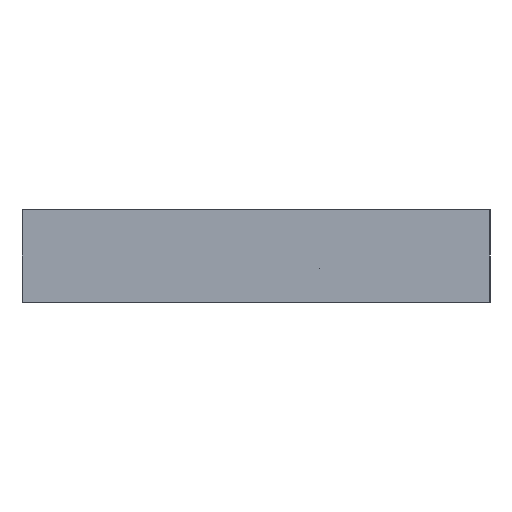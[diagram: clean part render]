
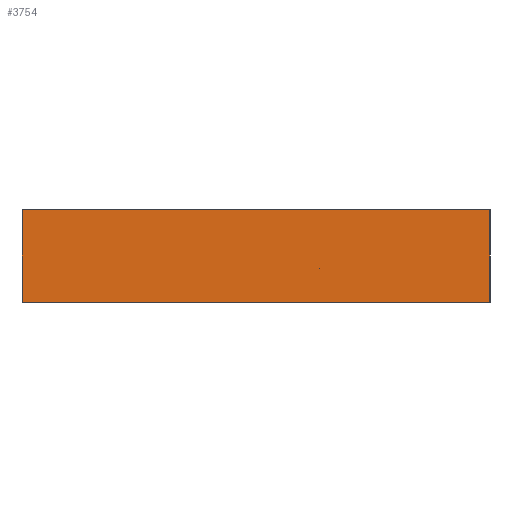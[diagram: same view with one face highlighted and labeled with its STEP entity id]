
A CAD part, left-side view. The second image highlights one B-rep face of the part: STEP entity #3754.
In plain terms, the highlighted planar face has unit normal (-1, 0, 0).
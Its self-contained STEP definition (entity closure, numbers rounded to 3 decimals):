
#44=FACE_OUTER_BOUND('',#233,.T.);
#233=EDGE_LOOP('',(#2758,#2759,#2760,#2761));
#575=LINE('',#5417,#1130);
#583=LINE('',#5431,#1138);
#587=LINE('',#5437,#1142);
#651=LINE('',#5567,#1206);
#1130=VECTOR('',#4336,10.);
#1138=VECTOR('',#4350,10.);
#1142=VECTOR('',#4356,10.);
#1206=VECTOR('',#4434,10.);
#1668=VERTEX_POINT('',#5414);
#1669=VERTEX_POINT('',#5416);
#1671=VERTEX_POINT('',#5428);
#1672=VERTEX_POINT('',#5430);
#2055=EDGE_CURVE('',#1669,#1668,#575,.T.);
#2063=EDGE_CURVE('',#1672,#1671,#583,.T.);
#2067=EDGE_CURVE('',#1671,#1669,#587,.T.);
#2131=EDGE_CURVE('',#1668,#1672,#651,.T.);
#2758=ORIENTED_EDGE('',*,*,#2131,.T.);
#2759=ORIENTED_EDGE('',*,*,#2063,.T.);
#2760=ORIENTED_EDGE('',*,*,#2067,.T.);
#2761=ORIENTED_EDGE('',*,*,#2055,.T.);
#3566=PLANE('',#3956);
#3754=ADVANCED_FACE('',(#44),#3566,.T.);
#3956=AXIS2_PLACEMENT_3D('',#5566,#4432,#4433);
#4336=DIRECTION('',(0.,0.,-1.));
#4350=DIRECTION('',(0.,0.,1.));
#4356=DIRECTION('',(0.,1.,0.));
#4432=DIRECTION('center_axis',(-1.,0.,0.));
#4433=DIRECTION('ref_axis',(0.,0.,1.));
#4434=DIRECTION('',(0.,-1.,0.));
#5414=CARTESIAN_POINT('',(-15.,330.6,0.));
#5416=CARTESIAN_POINT('',(-15.,330.6,70.));
#5417=CARTESIAN_POINT('',(-15.,330.6,0.));
#5428=CARTESIAN_POINT('',(-15.,-25.,70.));
#5430=CARTESIAN_POINT('',(-15.,-25.,0.));
#5431=CARTESIAN_POINT('',(-15.,-25.,68.));
#5437=CARTESIAN_POINT('',(-15.,315.6,70.));
#5566=CARTESIAN_POINT('Origin',(-15.,305.6,0.));
#5567=CARTESIAN_POINT('',(-15.,305.6,0.));
